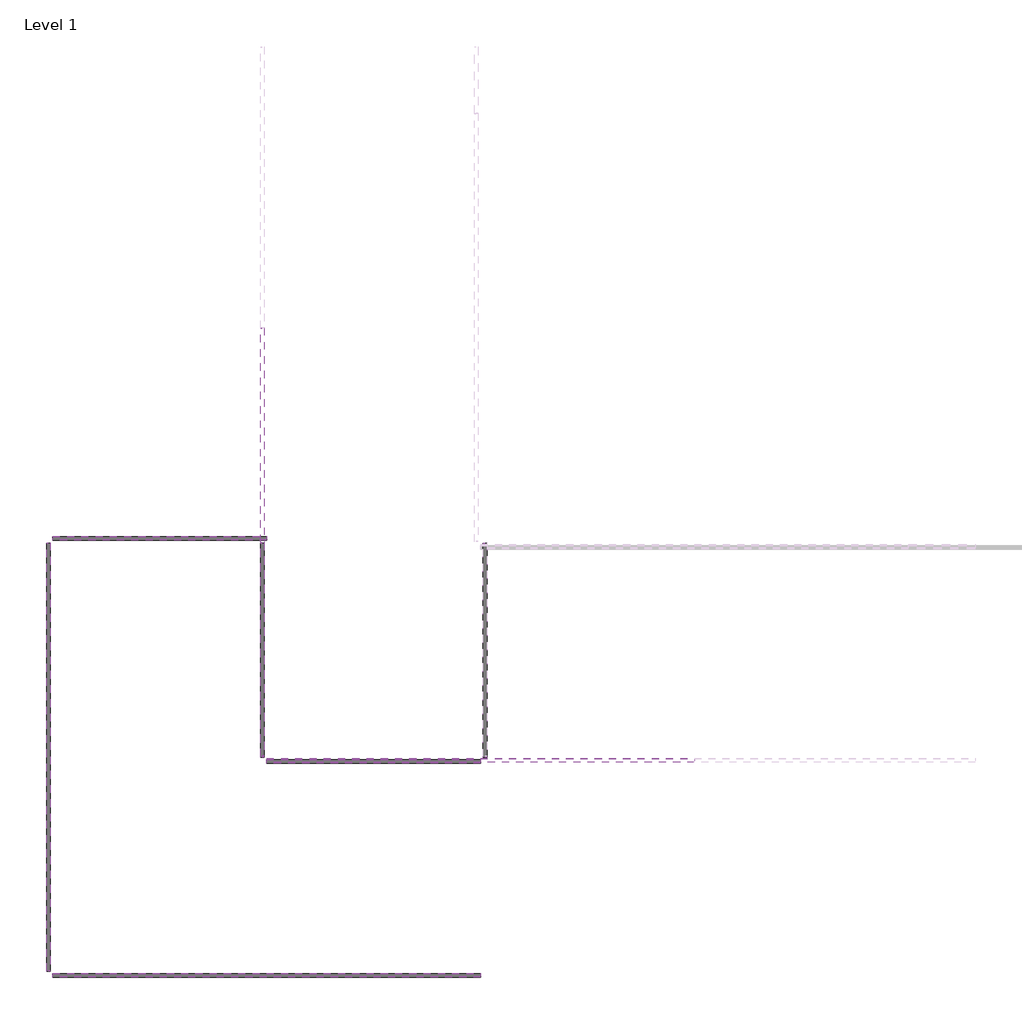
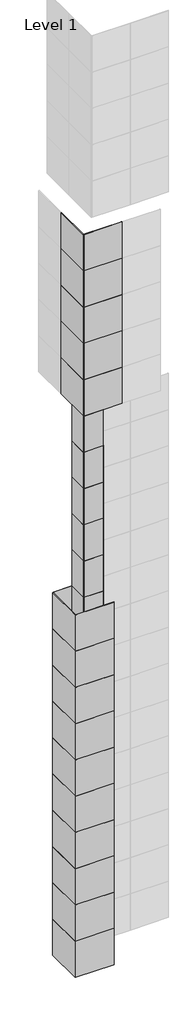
# One storey, part 1 of 15: 134 plates.
"""IFC4 building model written with IfcOpenShell, lengths in millimetres."""

from ifc_helpers import new_model, si_unit, origin, place, context, project, spatial, transform, mapped, element, save
from components import system_panel_glazed_9c75bc08, system_panel_glazed_0a0842ec, system_panel_glazed_aa64d645, system_panel_glazed_d5d3c74f

model = new_model("IFC4")

# Units and contexts
model_context = context("Model", 3, world=origin())
ifc_project = project(units=[si_unit("LENGTHUNIT", "METRE", prefix="MILLI")], contexts=[model_context])

# Site, building, storey
site = spatial("IfcSite", under=ifc_project)
building = spatial("IfcBuilding", under=site)
storey = spatial("IfcBuildingStorey", under=building, Name="Level 1", Elevation=0.0)

# Plates
placement = place(None, origin())
system_panel_glazed_shape = system_panel_glazed_9c75bc08(model_context)
element("IfcPlate", 1, ObjectType="System Panel : Glazed", at=placement, inside=storey, context=model_context, shape_type="MappedRepresentation", body=[
    mapped(system_panel_glazed_shape, transform((-20077.4161695, -5742.0504489, 0.0), x_axis=(1.0, 0.0, 0.0), y_axis=(0.0, 1.0, 0.0), z_axis=(0.0, 0.0, 1.0))),
])
element("IfcPlate", 2, ObjectType="System Panel : Glazed", at=placement, inside=storey, context=model_context, shape_type="MappedRepresentation", body=[
    mapped(system_panel_glazed_shape, transform((-20077.4161695, -5742.0504489, 3048.0), x_axis=(1.0, 0.0, 0.0), y_axis=(0.0, 1.0, 0.0), z_axis=(0.0, 0.0, 1.0))),
])
element("IfcPlate", 3, ObjectType="System Panel : Glazed", at=placement, inside=storey, context=model_context, shape_type="MappedRepresentation", body=[
    mapped(system_panel_glazed_shape, transform((-20077.4161695, -5742.0504489, 6096.0), x_axis=(1.0, 0.0, 0.0), y_axis=(0.0, 1.0, 0.0), z_axis=(0.0, 0.0, 1.0))),
])
element("IfcPlate", 4, ObjectType="System Panel : Glazed", at=placement, inside=storey, context=model_context, shape_type="MappedRepresentation", body=[
    mapped(system_panel_glazed_shape, transform((-20077.4161695, -5742.0504489, 9144.0), x_axis=(1.0, 0.0, 0.0), y_axis=(0.0, 1.0, 0.0), z_axis=(0.0, 0.0, 1.0))),
])
element("IfcPlate", 5, ObjectType="System Panel : Glazed", at=placement, inside=storey, context=model_context, shape_type="MappedRepresentation", body=[
    mapped(system_panel_glazed_shape, transform((-20077.4161695, -5742.0504489, 12192.0), x_axis=(1.0, 0.0, 0.0), y_axis=(0.0, 1.0, 0.0), z_axis=(0.0, 0.0, 1.0))),
])
element("IfcPlate", 6, ObjectType="System Panel : Glazed", at=placement, inside=storey, context=model_context, shape_type="MappedRepresentation", body=[
    mapped(system_panel_glazed_shape, transform((-20077.4161695, -5742.0504489, 15240.0), x_axis=(1.0, 0.0, 0.0), y_axis=(0.0, 1.0, 0.0), z_axis=(0.0, 0.0, 1.0))),
])
element("IfcPlate", 7, ObjectType="System Panel : Glazed", at=placement, inside=storey, context=model_context, shape_type="MappedRepresentation", body=[
    mapped(system_panel_glazed_shape, transform((-20077.4161695, -5742.0504489, 18288.0), x_axis=(1.0, 0.0, 0.0), y_axis=(0.0, 1.0, 0.0), z_axis=(0.0, 0.0, 1.0))),
])
element("IfcPlate", 8, ObjectType="System Panel : Glazed", at=placement, inside=storey, context=model_context, shape_type="MappedRepresentation", body=[
    mapped(system_panel_glazed_shape, transform((-20077.4161695, -5742.0504489, 21336.0), x_axis=(1.0, 0.0, 0.0), y_axis=(0.0, 1.0, 0.0), z_axis=(0.0, 0.0, 1.0))),
])
element("IfcPlate", 9, ObjectType="System Panel : Glazed", at=placement, inside=storey, context=model_context, shape_type="MappedRepresentation", body=[
    mapped(system_panel_glazed_shape, transform((-20077.4161695, -5742.0504489, 24384.0), x_axis=(1.0, 0.0, 0.0), y_axis=(0.0, 1.0, 0.0), z_axis=(0.0, 0.0, 1.0))),
])
element("IfcPlate", 10, ObjectType="System Panel : Glazed", at=placement, inside=storey, context=model_context, shape_type="MappedRepresentation", body=[
    mapped(system_panel_glazed_shape, transform((-20077.4161695, -5742.0504489, 27432.0), x_axis=(1.0, 0.0, 0.0), y_axis=(0.0, 1.0, 0.0), z_axis=(0.0, 0.0, 1.0))),
])
element("IfcPlate", 11, ObjectType="System Panel : Glazed", at=placement, inside=storey, context=model_context, shape_type="MappedRepresentation", body=[
    mapped(system_panel_glazed_shape, transform((-20077.4161695, -5742.0504489, 30480.0), x_axis=(1.0, 0.0, 0.0), y_axis=(0.0, 1.0, 0.0), z_axis=(0.0, 0.0, 1.0))),
])
element("IfcPlate", 12, ObjectType="System Panel : Glazed", at=placement, inside=storey, context=model_context, shape_type="MappedRepresentation", body=[
    mapped(system_panel_glazed_shape, transform((-20077.4161695, -5742.0504489, 33528.0), x_axis=(1.0, 0.0, 0.0), y_axis=(0.0, 1.0, 0.0), z_axis=(0.0, 0.0, 1.0))),
])
element("IfcPlate", 13, ObjectType="System Panel : Glazed", at=placement, inside=storey, context=model_context, shape_type="MappedRepresentation", body=[
    mapped(system_panel_glazed_shape, transform((-20077.4161695, -5742.0504489, 36576.0), x_axis=(1.0, 0.0, 0.0), y_axis=(0.0, 1.0, 0.0), z_axis=(0.0, 0.0, 1.0))),
])
element("IfcPlate", 14, ObjectType="System Panel : Glazed", at=placement, inside=storey, context=model_context, shape_type="MappedRepresentation", body=[
    mapped(system_panel_glazed_shape, transform((-20077.4161695, -5742.0504489, 39624.0), x_axis=(1.0, 0.0, 0.0), y_axis=(0.0, 1.0, 0.0), z_axis=(0.0, 0.0, 1.0))),
])
element("IfcPlate", 15, ObjectType="System Panel : Glazed", at=placement, inside=storey, context=model_context, shape_type="MappedRepresentation", body=[
    mapped(system_panel_glazed_shape, transform((-20077.4161695, -5742.0504489, 42672.0), x_axis=(1.0, 0.0, 0.0), y_axis=(0.0, 1.0, 0.0), z_axis=(0.0, 0.0, 1.0))),
])
element("IfcPlate", 16, ObjectType="System Panel : Glazed", at=placement, inside=storey, context=model_context, shape_type="MappedRepresentation", body=[
    mapped(system_panel_glazed_shape, transform((-20839.4161695, -4980.0504489, 0.0), x_axis=(0.0, -1.0, 0.0), y_axis=(1.0, 0.0, 0.0), z_axis=(0.0, 0.0, 1.0))),
])
element("IfcPlate", 17, ObjectType="System Panel : Glazed", at=placement, inside=storey, context=model_context, shape_type="MappedRepresentation", body=[
    mapped(system_panel_glazed_shape, transform((-20839.4161695, -4980.0504489, 3048.0), x_axis=(0.0, -1.0, 0.0), y_axis=(1.0, 0.0, 0.0), z_axis=(0.0, 0.0, 1.0))),
])
element("IfcPlate", 18, ObjectType="System Panel : Glazed", at=placement, inside=storey, context=model_context, shape_type="MappedRepresentation", body=[
    mapped(system_panel_glazed_shape, transform((-20839.4161695, -4980.0504489, 6096.0), x_axis=(0.0, -1.0, 0.0), y_axis=(1.0, 0.0, 0.0), z_axis=(0.0, 0.0, 1.0))),
])
element("IfcPlate", 19, ObjectType="System Panel : Glazed", at=placement, inside=storey, context=model_context, shape_type="MappedRepresentation", body=[
    mapped(system_panel_glazed_shape, transform((-20839.4161695, -4980.0504489, 9144.0), x_axis=(0.0, -1.0, 0.0), y_axis=(1.0, 0.0, 0.0), z_axis=(0.0, 0.0, 1.0))),
])
element("IfcPlate", 20, ObjectType="System Panel : Glazed", at=placement, inside=storey, context=model_context, shape_type="MappedRepresentation", body=[
    mapped(system_panel_glazed_shape, transform((-20839.4161695, -4980.0504489, 12192.0), x_axis=(0.0, -1.0, 0.0), y_axis=(1.0, 0.0, 0.0), z_axis=(0.0, 0.0, 1.0))),
])
element("IfcPlate", 21, ObjectType="System Panel : Glazed", at=placement, inside=storey, context=model_context, shape_type="MappedRepresentation", body=[
    mapped(system_panel_glazed_shape, transform((-20839.4161695, -4980.0504489, 15240.0), x_axis=(0.0, -1.0, 0.0), y_axis=(1.0, 0.0, 0.0), z_axis=(0.0, 0.0, 1.0))),
])
element("IfcPlate", 22, ObjectType="System Panel : Glazed", at=placement, inside=storey, context=model_context, shape_type="MappedRepresentation", body=[
    mapped(system_panel_glazed_shape, transform((-20839.4161695, -4980.0504489, 18288.0), x_axis=(0.0, -1.0, 0.0), y_axis=(1.0, 0.0, 0.0), z_axis=(0.0, 0.0, 1.0))),
])
element("IfcPlate", 23, ObjectType="System Panel : Glazed", at=placement, inside=storey, context=model_context, shape_type="MappedRepresentation", body=[
    mapped(system_panel_glazed_shape, transform((-20839.4161695, -4980.0504489, 21336.0), x_axis=(0.0, -1.0, 0.0), y_axis=(1.0, 0.0, 0.0), z_axis=(0.0, 0.0, 1.0))),
])
element("IfcPlate", 24, ObjectType="System Panel : Glazed", at=placement, inside=storey, context=model_context, shape_type="MappedRepresentation", body=[
    mapped(system_panel_glazed_shape, transform((-20839.4161695, -4980.0504489, 24384.0), x_axis=(0.0, -1.0, 0.0), y_axis=(1.0, 0.0, 0.0), z_axis=(0.0, 0.0, 1.0))),
])
element("IfcPlate", 25, ObjectType="System Panel : Glazed", at=placement, inside=storey, context=model_context, shape_type="MappedRepresentation", body=[
    mapped(system_panel_glazed_shape, transform((-20839.4161695, -4980.0504489, 27432.0), x_axis=(0.0, -1.0, 0.0), y_axis=(1.0, 0.0, 0.0), z_axis=(0.0, 0.0, 1.0))),
])
element("IfcPlate", 26, ObjectType="System Panel : Glazed", at=placement, inside=storey, context=model_context, shape_type="MappedRepresentation", body=[
    mapped(system_panel_glazed_shape, transform((-20839.4161695, -4980.0504489, 30480.0), x_axis=(0.0, -1.0, 0.0), y_axis=(1.0, 0.0, 0.0), z_axis=(0.0, 0.0, 1.0))),
])
element("IfcPlate", 27, ObjectType="System Panel : Glazed", at=placement, inside=storey, context=model_context, shape_type="MappedRepresentation", body=[
    mapped(system_panel_glazed_shape, transform((-20839.4161695, -4980.0504489, 33528.0), x_axis=(0.0, -1.0, 0.0), y_axis=(1.0, 0.0, 0.0), z_axis=(0.0, 0.0, 1.0))),
])
element("IfcPlate", 28, ObjectType="System Panel : Glazed", at=placement, inside=storey, context=model_context, shape_type="MappedRepresentation", body=[
    mapped(system_panel_glazed_shape, transform((-20839.4161695, -4980.0504489, 36576.0), x_axis=(0.0, -1.0, 0.0), y_axis=(1.0, 0.0, 0.0), z_axis=(0.0, 0.0, 1.0))),
])
element("IfcPlate", 29, ObjectType="System Panel : Glazed", at=placement, inside=storey, context=model_context, shape_type="MappedRepresentation", body=[
    mapped(system_panel_glazed_shape, transform((-20839.4161695, -4980.0504489, 39624.0), x_axis=(0.0, -1.0, 0.0), y_axis=(1.0, 0.0, 0.0), z_axis=(0.0, 0.0, 1.0))),
])
element("IfcPlate", 30, ObjectType="System Panel : Glazed", at=placement, inside=storey, context=model_context, shape_type="MappedRepresentation", body=[
    mapped(system_panel_glazed_shape, transform((-20839.4161695, -4980.0504489, 42672.0), x_axis=(0.0, -1.0, 0.0), y_axis=(1.0, 0.0, 0.0), z_axis=(0.0, 0.0, 1.0))),
])
element("IfcPlate", 31, ObjectType="System Panel : Glazed", at=placement, inside=storey, context=model_context, shape_type="MappedRepresentation", body=[
    mapped(system_panel_glazed_shape, transform((-20839.4161695, -4980.0504489, 0.0), x_axis=(0.0, -1.0, 0.0), y_axis=(1.0, 0.0, 0.0), z_axis=(0.0, 0.0, 1.0))),
])
element("IfcPlate", 32, ObjectType="System Panel : Glazed", at=placement, inside=storey, context=model_context, shape_type="MappedRepresentation", body=[
    mapped(system_panel_glazed_shape, transform((-20839.4161695, -4980.0504489, 3048.0), x_axis=(0.0, -1.0, 0.0), y_axis=(1.0, 0.0, 0.0), z_axis=(0.0, 0.0, 1.0))),
])
element("IfcPlate", 33, ObjectType="System Panel : Glazed", at=placement, inside=storey, context=model_context, shape_type="MappedRepresentation", body=[
    mapped(system_panel_glazed_shape, transform((-20839.4161695, -4980.0504489, 6096.0), x_axis=(0.0, -1.0, 0.0), y_axis=(1.0, 0.0, 0.0), z_axis=(0.0, 0.0, 1.0))),
])
element("IfcPlate", 34, ObjectType="System Panel : Glazed", at=placement, inside=storey, context=model_context, shape_type="MappedRepresentation", body=[
    mapped(system_panel_glazed_shape, transform((-20839.4161695, -4980.0504489, 9144.0), x_axis=(0.0, -1.0, 0.0), y_axis=(1.0, 0.0, 0.0), z_axis=(0.0, 0.0, 1.0))),
])
element("IfcPlate", 35, ObjectType="System Panel : Glazed", at=placement, inside=storey, context=model_context, shape_type="MappedRepresentation", body=[
    mapped(system_panel_glazed_shape, transform((-20839.4161695, -4980.0504489, 12192.0), x_axis=(0.0, -1.0, 0.0), y_axis=(1.0, 0.0, 0.0), z_axis=(0.0, 0.0, 1.0))),
])
element("IfcPlate", 36, ObjectType="System Panel : Glazed", at=placement, inside=storey, context=model_context, shape_type="MappedRepresentation", body=[
    mapped(system_panel_glazed_shape, transform((-20839.4161695, -4980.0504489, 15240.0), x_axis=(0.0, -1.0, 0.0), y_axis=(1.0, 0.0, 0.0), z_axis=(0.0, 0.0, 1.0))),
])
element("IfcPlate", 37, ObjectType="System Panel : Glazed", at=placement, inside=storey, context=model_context, shape_type="MappedRepresentation", body=[
    mapped(system_panel_glazed_shape, transform((-20839.4161695, -4980.0504489, 18288.0), x_axis=(0.0, -1.0, 0.0), y_axis=(1.0, 0.0, 0.0), z_axis=(0.0, 0.0, 1.0))),
])
element("IfcPlate", 38, ObjectType="System Panel : Glazed", at=placement, inside=storey, context=model_context, shape_type="MappedRepresentation", body=[
    mapped(system_panel_glazed_shape, transform((-20839.4161695, -4980.0504489, 21336.0), x_axis=(0.0, -1.0, 0.0), y_axis=(1.0, 0.0, 0.0), z_axis=(0.0, 0.0, 1.0))),
])
element("IfcPlate", 39, ObjectType="System Panel : Glazed", at=placement, inside=storey, context=model_context, shape_type="MappedRepresentation", body=[
    mapped(system_panel_glazed_shape, transform((-20839.4161695, -4980.0504489, 24384.0), x_axis=(0.0, -1.0, 0.0), y_axis=(1.0, 0.0, 0.0), z_axis=(0.0, 0.0, 1.0))),
])
element("IfcPlate", 40, ObjectType="System Panel : Glazed", at=placement, inside=storey, context=model_context, shape_type="MappedRepresentation", body=[
    mapped(system_panel_glazed_shape, transform((-20839.4161695, -4980.0504489, 27432.0), x_axis=(0.0, -1.0, 0.0), y_axis=(1.0, 0.0, 0.0), z_axis=(0.0, 0.0, 1.0))),
])
element("IfcPlate", 41, ObjectType="System Panel : Glazed", at=placement, inside=storey, context=model_context, shape_type="MappedRepresentation", body=[
    mapped(system_panel_glazed_shape, transform((-20839.4161695, -4980.0504489, 30480.0), x_axis=(0.0, -1.0, 0.0), y_axis=(1.0, 0.0, 0.0), z_axis=(0.0, 0.0, 1.0))),
])
element("IfcPlate", 42, ObjectType="System Panel : Glazed", at=placement, inside=storey, context=model_context, shape_type="MappedRepresentation", body=[
    mapped(system_panel_glazed_shape, transform((-20839.4161695, -4980.0504489, 33528.0), x_axis=(0.0, -1.0, 0.0), y_axis=(1.0, 0.0, 0.0), z_axis=(0.0, 0.0, 1.0))),
])
element("IfcPlate", 43, ObjectType="System Panel : Glazed", at=placement, inside=storey, context=model_context, shape_type="MappedRepresentation", body=[
    mapped(system_panel_glazed_shape, transform((-20839.4161695, -4980.0504489, 36576.0), x_axis=(0.0, -1.0, 0.0), y_axis=(1.0, 0.0, 0.0), z_axis=(0.0, 0.0, 1.0))),
])
element("IfcPlate", 44, ObjectType="System Panel : Glazed", at=placement, inside=storey, context=model_context, shape_type="MappedRepresentation", body=[
    mapped(system_panel_glazed_shape, transform((-20839.4161695, -4980.0504489, 39624.0), x_axis=(0.0, -1.0, 0.0), y_axis=(1.0, 0.0, 0.0), z_axis=(0.0, 0.0, 1.0))),
])
element("IfcPlate", 45, ObjectType="System Panel : Glazed", at=placement, inside=storey, context=model_context, shape_type="MappedRepresentation", body=[
    mapped(system_panel_glazed_shape, transform((-20839.4161695, -4980.0504489, 42672.0), x_axis=(0.0, -1.0, 0.0), y_axis=(1.0, 0.0, 0.0), z_axis=(0.0, 0.0, 1.0))),
])
element("IfcPlate", 46, ObjectType="System Panel : Glazed", at=placement, inside=storey, context=model_context, shape_type="MappedRepresentation", body=[
    mapped(system_panel_glazed_shape, transform((-21601.4161695, -4218.0504489, 0.0), x_axis=(-1.0, 0.0, 0.0), y_axis=(0.0, -1.0, 0.0), z_axis=(0.0, 0.0, 1.0))),
])
element("IfcPlate", 47, ObjectType="System Panel : Glazed", at=placement, inside=storey, context=model_context, shape_type="MappedRepresentation", body=[
    mapped(system_panel_glazed_shape, transform((-21601.4161695, -4218.0504489, 3048.0), x_axis=(-1.0, 0.0, 0.0), y_axis=(0.0, -1.0, 0.0), z_axis=(0.0, 0.0, 1.0))),
])
element("IfcPlate", 48, ObjectType="System Panel : Glazed", at=placement, inside=storey, context=model_context, shape_type="MappedRepresentation", body=[
    mapped(system_panel_glazed_shape, transform((-21601.4161695, -4218.0504489, 6096.0), x_axis=(-1.0, 0.0, 0.0), y_axis=(0.0, -1.0, 0.0), z_axis=(0.0, 0.0, 1.0))),
])
element("IfcPlate", 49, ObjectType="System Panel : Glazed", at=placement, inside=storey, context=model_context, shape_type="MappedRepresentation", body=[
    mapped(system_panel_glazed_shape, transform((-21601.4161695, -4218.0504489, 9144.0), x_axis=(-1.0, 0.0, 0.0), y_axis=(0.0, -1.0, 0.0), z_axis=(0.0, 0.0, 1.0))),
])
element("IfcPlate", 50, ObjectType="System Panel : Glazed", at=placement, inside=storey, context=model_context, shape_type="MappedRepresentation", body=[
    mapped(system_panel_glazed_shape, transform((-21601.4161695, -4218.0504489, 12192.0), x_axis=(-1.0, 0.0, 0.0), y_axis=(0.0, -1.0, 0.0), z_axis=(0.0, 0.0, 1.0))),
])
element("IfcPlate", 51, ObjectType="System Panel : Glazed", at=placement, inside=storey, context=model_context, shape_type="MappedRepresentation", body=[
    mapped(system_panel_glazed_shape, transform((-21601.4161695, -4218.0504489, 15240.0), x_axis=(-1.0, 0.0, 0.0), y_axis=(0.0, -1.0, 0.0), z_axis=(0.0, 0.0, 1.0))),
])
element("IfcPlate", 52, ObjectType="System Panel : Glazed", at=placement, inside=storey, context=model_context, shape_type="MappedRepresentation", body=[
    mapped(system_panel_glazed_shape, transform((-21601.4161695, -4218.0504489, 18288.0), x_axis=(-1.0, 0.0, 0.0), y_axis=(0.0, -1.0, 0.0), z_axis=(0.0, 0.0, 1.0))),
])
element("IfcPlate", 53, ObjectType="System Panel : Glazed", at=placement, inside=storey, context=model_context, shape_type="MappedRepresentation", body=[
    mapped(system_panel_glazed_shape, transform((-21601.4161695, -4218.0504489, 21336.0), x_axis=(-1.0, 0.0, 0.0), y_axis=(0.0, -1.0, 0.0), z_axis=(0.0, 0.0, 1.0))),
])
element("IfcPlate", 54, ObjectType="System Panel : Glazed", at=placement, inside=storey, context=model_context, shape_type="MappedRepresentation", body=[
    mapped(system_panel_glazed_shape, transform((-21601.4161695, -4218.0504489, 24384.0), x_axis=(-1.0, 0.0, 0.0), y_axis=(0.0, -1.0, 0.0), z_axis=(0.0, 0.0, 1.0))),
])
element("IfcPlate", 55, ObjectType="System Panel : Glazed", at=placement, inside=storey, context=model_context, shape_type="MappedRepresentation", body=[
    mapped(system_panel_glazed_shape, transform((-21601.4161695, -4218.0504489, 27432.0), x_axis=(-1.0, 0.0, 0.0), y_axis=(0.0, -1.0, 0.0), z_axis=(0.0, 0.0, 1.0))),
])
system_panel_glazed_2_shape = system_panel_glazed_0a0842ec(model_context)
element("IfcPlate", 56, ObjectType="System Panel : Glazed", at=placement, inside=storey, context=model_context, shape_type="MappedRepresentation", body=[
    mapped(system_panel_glazed_2_shape, transform((-19315.4161695, -5742.0504489, 45720.0), x_axis=(1.0, 0.0, 0.0), y_axis=(0.0, 1.0, 0.0), z_axis=(0.0, 0.0, 1.0))),
])
element("IfcPlate", 57, ObjectType="System Panel : Glazed", at=placement, inside=storey, context=model_context, shape_type="MappedRepresentation", body=[
    mapped(system_panel_glazed_2_shape, transform((-20839.4161695, -4218.0504489, 45720.0), x_axis=(0.0, -1.0, 0.0), y_axis=(1.0, 0.0, 0.0), z_axis=(0.0, 0.0, 1.0))),
])
element("IfcPlate", 58, ObjectType="System Panel : Glazed", at=placement, inside=storey, context=model_context, shape_type="MappedRepresentation", body=[
    mapped(system_panel_glazed_2_shape, transform((-20839.4161695, -4218.0504489, 45720.0), x_axis=(0.0, -1.0, 0.0), y_axis=(1.0, 0.0, 0.0), z_axis=(0.0, 0.0, 1.0))),
])
system_panel_glazed_3_shape = system_panel_glazed_aa64d645(model_context)
element("IfcPlate", 59, ObjectType="System Panel : Glazed", at=placement, inside=storey, context=model_context, shape_type="MappedRepresentation", body=[
    mapped(system_panel_glazed_3_shape, transform((-19315.4161695, -5742.0504489, 48768.0), x_axis=(1.0, 0.0, 0.0), y_axis=(0.0, 1.0, 0.0), z_axis=(0.0, 0.0, 1.0))),
])
element("IfcPlate", 60, ObjectType="System Panel : Glazed", at=placement, inside=storey, context=model_context, shape_type="MappedRepresentation", body=[
    mapped(system_panel_glazed_3_shape, transform((-19315.4161695, -5742.0504489, 51816.0), x_axis=(1.0, 0.0, 0.0), y_axis=(0.0, 1.0, 0.0), z_axis=(0.0, 0.0, 1.0))),
])
element("IfcPlate", 61, ObjectType="System Panel : Glazed", at=placement, inside=storey, context=model_context, shape_type="MappedRepresentation", body=[
    mapped(system_panel_glazed_3_shape, transform((-19315.4161695, -5742.0504489, 54864.0), x_axis=(1.0, 0.0, 0.0), y_axis=(0.0, 1.0, 0.0), z_axis=(0.0, 0.0, 1.0))),
])
element("IfcPlate", 62, ObjectType="System Panel : Glazed", at=placement, inside=storey, context=model_context, shape_type="MappedRepresentation", body=[
    mapped(system_panel_glazed_3_shape, transform((-19315.4161695, -5742.0504489, 57912.0), x_axis=(1.0, 0.0, 0.0), y_axis=(0.0, 1.0, 0.0), z_axis=(0.0, 0.0, 1.0))),
])
element("IfcPlate", 63, ObjectType="System Panel : Glazed", at=placement, inside=storey, context=model_context, shape_type="MappedRepresentation", body=[
    mapped(system_panel_glazed_3_shape, transform((-20839.4161695, -4218.0504489, 48768.0), x_axis=(0.0, -1.0, 0.0), y_axis=(1.0, 0.0, 0.0), z_axis=(0.0, 0.0, 1.0))),
])
element("IfcPlate", 64, ObjectType="System Panel : Glazed", at=placement, inside=storey, context=model_context, shape_type="MappedRepresentation", body=[
    mapped(system_panel_glazed_3_shape, transform((-20839.4161695, -4218.0504489, 51816.0), x_axis=(0.0, -1.0, 0.0), y_axis=(1.0, 0.0, 0.0), z_axis=(0.0, 0.0, 1.0))),
])
element("IfcPlate", 65, ObjectType="System Panel : Glazed", at=placement, inside=storey, context=model_context, shape_type="MappedRepresentation", body=[
    mapped(system_panel_glazed_3_shape, transform((-20839.4161695, -4218.0504489, 54864.0), x_axis=(0.0, -1.0, 0.0), y_axis=(1.0, 0.0, 0.0), z_axis=(0.0, 0.0, 1.0))),
])
element("IfcPlate", 66, ObjectType="System Panel : Glazed", at=placement, inside=storey, context=model_context, shape_type="MappedRepresentation", body=[
    mapped(system_panel_glazed_3_shape, transform((-20839.4161695, -4218.0504489, 57912.0), x_axis=(0.0, -1.0, 0.0), y_axis=(1.0, 0.0, 0.0), z_axis=(0.0, 0.0, 1.0))),
])
element("IfcPlate", 67, ObjectType="System Panel : Glazed", at=placement, inside=storey, context=model_context, shape_type="MappedRepresentation", body=[
    mapped(system_panel_glazed_3_shape, transform((-20839.4161695, -4218.0504489, 48768.0), x_axis=(0.0, -1.0, 0.0), y_axis=(1.0, 0.0, 0.0), z_axis=(0.0, 0.0, 1.0))),
])
element("IfcPlate", 68, ObjectType="System Panel : Glazed", at=placement, inside=storey, context=model_context, shape_type="MappedRepresentation", body=[
    mapped(system_panel_glazed_3_shape, transform((-20839.4161695, -4218.0504489, 51816.0), x_axis=(0.0, -1.0, 0.0), y_axis=(1.0, 0.0, 0.0), z_axis=(0.0, 0.0, 1.0))),
])
element("IfcPlate", 69, ObjectType="System Panel : Glazed", at=placement, inside=storey, context=model_context, shape_type="MappedRepresentation", body=[
    mapped(system_panel_glazed_3_shape, transform((-20839.4161695, -4218.0504489, 54864.0), x_axis=(0.0, -1.0, 0.0), y_axis=(1.0, 0.0, 0.0), z_axis=(0.0, 0.0, 1.0))),
])
element("IfcPlate", 70, ObjectType="System Panel : Glazed", at=placement, inside=storey, context=model_context, shape_type="MappedRepresentation", body=[
    mapped(system_panel_glazed_3_shape, transform((-20839.4161695, -4218.0504489, 57912.0), x_axis=(0.0, -1.0, 0.0), y_axis=(1.0, 0.0, 0.0), z_axis=(0.0, 0.0, 1.0))),
])
element("IfcPlate", 71, ObjectType="System Panel : Glazed", at=placement, inside=storey, context=model_context, shape_type="MappedRepresentation", body=[
    mapped(system_panel_glazed_3_shape, transform((-20839.4161695, -7266.0504489, 0.0), x_axis=(1.0, 0.0, 0.0), y_axis=(0.0, 1.0, 0.0), z_axis=(0.0, 0.0, 1.0))),
])
element("IfcPlate", 72, ObjectType="System Panel : Glazed", at=placement, inside=storey, context=model_context, shape_type="MappedRepresentation", body=[
    mapped(system_panel_glazed_3_shape, transform((-20839.4161695, -7266.0504489, 3048.0), x_axis=(1.0, 0.0, 0.0), y_axis=(0.0, 1.0, 0.0), z_axis=(0.0, 0.0, 1.0))),
])
element("IfcPlate", 73, ObjectType="System Panel : Glazed", at=placement, inside=storey, context=model_context, shape_type="MappedRepresentation", body=[
    mapped(system_panel_glazed_3_shape, transform((-20839.4161695, -7266.0504489, 6096.0), x_axis=(1.0, 0.0, 0.0), y_axis=(0.0, 1.0, 0.0), z_axis=(0.0, 0.0, 1.0))),
])
element("IfcPlate", 74, ObjectType="System Panel : Glazed", at=placement, inside=storey, context=model_context, shape_type="MappedRepresentation", body=[
    mapped(system_panel_glazed_3_shape, transform((-20839.4161695, -7266.0504489, 9144.0), x_axis=(1.0, 0.0, 0.0), y_axis=(0.0, 1.0, 0.0), z_axis=(0.0, 0.0, 1.0))),
])
element("IfcPlate", 75, ObjectType="System Panel : Glazed", at=placement, inside=storey, context=model_context, shape_type="MappedRepresentation", body=[
    mapped(system_panel_glazed_3_shape, transform((-20839.4161695, -7266.0504489, 12192.0), x_axis=(1.0, 0.0, 0.0), y_axis=(0.0, 1.0, 0.0), z_axis=(0.0, 0.0, 1.0))),
])
element("IfcPlate", 76, ObjectType="System Panel : Glazed", at=placement, inside=storey, context=model_context, shape_type="MappedRepresentation", body=[
    mapped(system_panel_glazed_3_shape, transform((-20839.4161695, -7266.0504489, 15240.0), x_axis=(1.0, 0.0, 0.0), y_axis=(0.0, 1.0, 0.0), z_axis=(0.0, 0.0, 1.0))),
])
element("IfcPlate", 77, ObjectType="System Panel : Glazed", at=placement, inside=storey, context=model_context, shape_type="MappedRepresentation", body=[
    mapped(system_panel_glazed_3_shape, transform((-20839.4161695, -7266.0504489, 18288.0), x_axis=(1.0, 0.0, 0.0), y_axis=(0.0, 1.0, 0.0), z_axis=(0.0, 0.0, 1.0))),
])
element("IfcPlate", 78, ObjectType="System Panel : Glazed", at=placement, inside=storey, context=model_context, shape_type="MappedRepresentation", body=[
    mapped(system_panel_glazed_3_shape, transform((-20839.4161695, -7266.0504489, 21336.0), x_axis=(1.0, 0.0, 0.0), y_axis=(0.0, 1.0, 0.0), z_axis=(0.0, 0.0, 1.0))),
])
element("IfcPlate", 79, ObjectType="System Panel : Glazed", at=placement, inside=storey, context=model_context, shape_type="MappedRepresentation", body=[
    mapped(system_panel_glazed_3_shape, transform((-20839.4161695, -7266.0504489, 24384.0), x_axis=(1.0, 0.0, 0.0), y_axis=(0.0, 1.0, 0.0), z_axis=(0.0, 0.0, 1.0))),
])
element("IfcPlate", 80, ObjectType="System Panel : Glazed", at=placement, inside=storey, context=model_context, shape_type="MappedRepresentation", body=[
    mapped(system_panel_glazed_3_shape, transform((-20839.4161695, -7266.0504489, 27432.0), x_axis=(1.0, 0.0, 0.0), y_axis=(0.0, 1.0, 0.0), z_axis=(0.0, 0.0, 1.0))),
])
element("IfcPlate", 81, ObjectType="System Panel : Glazed", at=placement, inside=storey, context=model_context, shape_type="MappedRepresentation", body=[
    mapped(system_panel_glazed_3_shape, transform((-22363.4161695, -5742.0504489, 0.0), x_axis=(0.0, -1.0, 0.0), y_axis=(1.0, 0.0, 0.0), z_axis=(0.0, 0.0, 1.0))),
])
element("IfcPlate", 82, ObjectType="System Panel : Glazed", at=placement, inside=storey, context=model_context, shape_type="MappedRepresentation", body=[
    mapped(system_panel_glazed_3_shape, transform((-22363.4161695, -5742.0504489, 3048.0), x_axis=(0.0, -1.0, 0.0), y_axis=(1.0, 0.0, 0.0), z_axis=(0.0, 0.0, 1.0))),
])
element("IfcPlate", 83, ObjectType="System Panel : Glazed", at=placement, inside=storey, context=model_context, shape_type="MappedRepresentation", body=[
    mapped(system_panel_glazed_3_shape, transform((-22363.4161695, -5742.0504489, 6096.0), x_axis=(0.0, -1.0, 0.0), y_axis=(1.0, 0.0, 0.0), z_axis=(0.0, 0.0, 1.0))),
])
element("IfcPlate", 84, ObjectType="System Panel : Glazed", at=placement, inside=storey, context=model_context, shape_type="MappedRepresentation", body=[
    mapped(system_panel_glazed_3_shape, transform((-22363.4161695, -5742.0504489, 9144.0), x_axis=(0.0, -1.0, 0.0), y_axis=(1.0, 0.0, 0.0), z_axis=(0.0, 0.0, 1.0))),
])
element("IfcPlate", 85, ObjectType="System Panel : Glazed", at=placement, inside=storey, context=model_context, shape_type="MappedRepresentation", body=[
    mapped(system_panel_glazed_3_shape, transform((-22363.4161695, -5742.0504489, 12192.0), x_axis=(0.0, -1.0, 0.0), y_axis=(1.0, 0.0, 0.0), z_axis=(0.0, 0.0, 1.0))),
])
element("IfcPlate", 86, ObjectType="System Panel : Glazed", at=placement, inside=storey, context=model_context, shape_type="MappedRepresentation", body=[
    mapped(system_panel_glazed_3_shape, transform((-22363.4161695, -5742.0504489, 15240.0), x_axis=(0.0, -1.0, 0.0), y_axis=(1.0, 0.0, 0.0), z_axis=(0.0, 0.0, 1.0))),
])
element("IfcPlate", 87, ObjectType="System Panel : Glazed", at=placement, inside=storey, context=model_context, shape_type="MappedRepresentation", body=[
    mapped(system_panel_glazed_3_shape, transform((-22363.4161695, -5742.0504489, 18288.0), x_axis=(0.0, -1.0, 0.0), y_axis=(1.0, 0.0, 0.0), z_axis=(0.0, 0.0, 1.0))),
])
element("IfcPlate", 88, ObjectType="System Panel : Glazed", at=placement, inside=storey, context=model_context, shape_type="MappedRepresentation", body=[
    mapped(system_panel_glazed_3_shape, transform((-22363.4161695, -5742.0504489, 21336.0), x_axis=(0.0, -1.0, 0.0), y_axis=(1.0, 0.0, 0.0), z_axis=(0.0, 0.0, 1.0))),
])
element("IfcPlate", 89, ObjectType="System Panel : Glazed", at=placement, inside=storey, context=model_context, shape_type="MappedRepresentation", body=[
    mapped(system_panel_glazed_3_shape, transform((-22363.4161695, -5742.0504489, 24384.0), x_axis=(0.0, -1.0, 0.0), y_axis=(1.0, 0.0, 0.0), z_axis=(0.0, 0.0, 1.0))),
])
element("IfcPlate", 90, ObjectType="System Panel : Glazed", at=placement, inside=storey, context=model_context, shape_type="MappedRepresentation", body=[
    mapped(system_panel_glazed_3_shape, transform((-22363.4161695, -5742.0504489, 27432.0), x_axis=(0.0, -1.0, 0.0), y_axis=(1.0, 0.0, 0.0), z_axis=(0.0, 0.0, 1.0))),
])
element("IfcPlate", 91, ObjectType="System Panel : Glazed", at=placement, inside=storey, context=model_context, shape_type="MappedRepresentation", body=[
    mapped(system_panel_glazed_3_shape, transform((-22363.4161695, -5742.0504489, 0.0), x_axis=(0.0, -1.0, 0.0), y_axis=(1.0, 0.0, 0.0), z_axis=(0.0, 0.0, 1.0))),
])
element("IfcPlate", 92, ObjectType="System Panel : Glazed", at=placement, inside=storey, context=model_context, shape_type="MappedRepresentation", body=[
    mapped(system_panel_glazed_3_shape, transform((-22363.4161695, -5742.0504489, 3048.0), x_axis=(0.0, -1.0, 0.0), y_axis=(1.0, 0.0, 0.0), z_axis=(0.0, 0.0, 1.0))),
])
element("IfcPlate", 93, ObjectType="System Panel : Glazed", at=placement, inside=storey, context=model_context, shape_type="MappedRepresentation", body=[
    mapped(system_panel_glazed_3_shape, transform((-22363.4161695, -5742.0504489, 6096.0), x_axis=(0.0, -1.0, 0.0), y_axis=(1.0, 0.0, 0.0), z_axis=(0.0, 0.0, 1.0))),
])
element("IfcPlate", 94, ObjectType="System Panel : Glazed", at=placement, inside=storey, context=model_context, shape_type="MappedRepresentation", body=[
    mapped(system_panel_glazed_3_shape, transform((-22363.4161695, -5742.0504489, 9144.0), x_axis=(0.0, -1.0, 0.0), y_axis=(1.0, 0.0, 0.0), z_axis=(0.0, 0.0, 1.0))),
])
element("IfcPlate", 95, ObjectType="System Panel : Glazed", at=placement, inside=storey, context=model_context, shape_type="MappedRepresentation", body=[
    mapped(system_panel_glazed_3_shape, transform((-22363.4161695, -5742.0504489, 12192.0), x_axis=(0.0, -1.0, 0.0), y_axis=(1.0, 0.0, 0.0), z_axis=(0.0, 0.0, 1.0))),
])
element("IfcPlate", 96, ObjectType="System Panel : Glazed", at=placement, inside=storey, context=model_context, shape_type="MappedRepresentation", body=[
    mapped(system_panel_glazed_3_shape, transform((-22363.4161695, -5742.0504489, 15240.0), x_axis=(0.0, -1.0, 0.0), y_axis=(1.0, 0.0, 0.0), z_axis=(0.0, 0.0, 1.0))),
])
element("IfcPlate", 97, ObjectType="System Panel : Glazed", at=placement, inside=storey, context=model_context, shape_type="MappedRepresentation", body=[
    mapped(system_panel_glazed_3_shape, transform((-22363.4161695, -5742.0504489, 18288.0), x_axis=(0.0, -1.0, 0.0), y_axis=(1.0, 0.0, 0.0), z_axis=(0.0, 0.0, 1.0))),
])
element("IfcPlate", 98, ObjectType="System Panel : Glazed", at=placement, inside=storey, context=model_context, shape_type="MappedRepresentation", body=[
    mapped(system_panel_glazed_3_shape, transform((-22363.4161695, -5742.0504489, 21336.0), x_axis=(0.0, -1.0, 0.0), y_axis=(1.0, 0.0, 0.0), z_axis=(0.0, 0.0, 1.0))),
])
element("IfcPlate", 99, ObjectType="System Panel : Glazed", at=placement, inside=storey, context=model_context, shape_type="MappedRepresentation", body=[
    mapped(system_panel_glazed_3_shape, transform((-22363.4161695, -5742.0504489, 24384.0), x_axis=(0.0, -1.0, 0.0), y_axis=(1.0, 0.0, 0.0), z_axis=(0.0, 0.0, 1.0))),
])
element("IfcPlate", 100, ObjectType="System Panel : Glazed", at=placement, inside=storey, context=model_context, shape_type="MappedRepresentation", body=[
    mapped(system_panel_glazed_3_shape, transform((-22363.4161695, -5742.0504489, 27432.0), x_axis=(0.0, -1.0, 0.0), y_axis=(1.0, 0.0, 0.0), z_axis=(0.0, 0.0, 1.0))),
])
element("IfcPlate", 101, ObjectType="System Panel : Glazed", at=placement, inside=storey, context=model_context, shape_type="MappedRepresentation", body=[
    mapped(system_panel_glazed_3_shape, transform((-22363.4161695, -5742.0504489, 0.0), x_axis=(0.0, -1.0, 0.0), y_axis=(1.0, 0.0, 0.0), z_axis=(0.0, 0.0, 1.0))),
])
element("IfcPlate", 102, ObjectType="System Panel : Glazed", at=placement, inside=storey, context=model_context, shape_type="MappedRepresentation", body=[
    mapped(system_panel_glazed_3_shape, transform((-22363.4161695, -5742.0504489, 3048.0), x_axis=(0.0, -1.0, 0.0), y_axis=(1.0, 0.0, 0.0), z_axis=(0.0, 0.0, 1.0))),
])
element("IfcPlate", 103, ObjectType="System Panel : Glazed", at=placement, inside=storey, context=model_context, shape_type="MappedRepresentation", body=[
    mapped(system_panel_glazed_3_shape, transform((-22363.4161695, -5742.0504489, 6096.0), x_axis=(0.0, -1.0, 0.0), y_axis=(1.0, 0.0, 0.0), z_axis=(0.0, 0.0, 1.0))),
])
element("IfcPlate", 104, ObjectType="System Panel : Glazed", at=placement, inside=storey, context=model_context, shape_type="MappedRepresentation", body=[
    mapped(system_panel_glazed_3_shape, transform((-22363.4161695, -5742.0504489, 9144.0), x_axis=(0.0, -1.0, 0.0), y_axis=(1.0, 0.0, 0.0), z_axis=(0.0, 0.0, 1.0))),
])
element("IfcPlate", 105, ObjectType="System Panel : Glazed", at=placement, inside=storey, context=model_context, shape_type="MappedRepresentation", body=[
    mapped(system_panel_glazed_3_shape, transform((-22363.4161695, -5742.0504489, 12192.0), x_axis=(0.0, -1.0, 0.0), y_axis=(1.0, 0.0, 0.0), z_axis=(0.0, 0.0, 1.0))),
])
element("IfcPlate", 106, ObjectType="System Panel : Glazed", at=placement, inside=storey, context=model_context, shape_type="MappedRepresentation", body=[
    mapped(system_panel_glazed_3_shape, transform((-22363.4161695, -5742.0504489, 15240.0), x_axis=(0.0, -1.0, 0.0), y_axis=(1.0, 0.0, 0.0), z_axis=(0.0, 0.0, 1.0))),
])
element("IfcPlate", 107, ObjectType="System Panel : Glazed", at=placement, inside=storey, context=model_context, shape_type="MappedRepresentation", body=[
    mapped(system_panel_glazed_3_shape, transform((-22363.4161695, -5742.0504489, 18288.0), x_axis=(0.0, -1.0, 0.0), y_axis=(1.0, 0.0, 0.0), z_axis=(0.0, 0.0, 1.0))),
])
element("IfcPlate", 108, ObjectType="System Panel : Glazed", at=placement, inside=storey, context=model_context, shape_type="MappedRepresentation", body=[
    mapped(system_panel_glazed_3_shape, transform((-22363.4161695, -5742.0504489, 21336.0), x_axis=(0.0, -1.0, 0.0), y_axis=(1.0, 0.0, 0.0), z_axis=(0.0, 0.0, 1.0))),
])
element("IfcPlate", 109, ObjectType="System Panel : Glazed", at=placement, inside=storey, context=model_context, shape_type="MappedRepresentation", body=[
    mapped(system_panel_glazed_3_shape, transform((-22363.4161695, -5742.0504489, 24384.0), x_axis=(0.0, -1.0, 0.0), y_axis=(1.0, 0.0, 0.0), z_axis=(0.0, 0.0, 1.0))),
])
element("IfcPlate", 110, ObjectType="System Panel : Glazed", at=placement, inside=storey, context=model_context, shape_type="MappedRepresentation", body=[
    mapped(system_panel_glazed_3_shape, transform((-22363.4161695, -5742.0504489, 27432.0), x_axis=(0.0, -1.0, 0.0), y_axis=(1.0, 0.0, 0.0), z_axis=(0.0, 0.0, 1.0))),
])
element("IfcPlate", 111, ObjectType="System Panel : Glazed", at=placement, inside=storey, context=model_context, shape_type="MappedRepresentation", body=[
    mapped(system_panel_glazed_3_shape, transform((-20839.4161695, -7266.0504489, 0.0), x_axis=(1.0, 0.0, 0.0), y_axis=(0.0, 1.0, 0.0), z_axis=(0.0, 0.0, 1.0))),
])
element("IfcPlate", 112, ObjectType="System Panel : Glazed", at=placement, inside=storey, context=model_context, shape_type="MappedRepresentation", body=[
    mapped(system_panel_glazed_3_shape, transform((-20839.4161695, -7266.0504489, 3048.0), x_axis=(1.0, 0.0, 0.0), y_axis=(0.0, 1.0, 0.0), z_axis=(0.0, 0.0, 1.0))),
])
element("IfcPlate", 113, ObjectType="System Panel : Glazed", at=placement, inside=storey, context=model_context, shape_type="MappedRepresentation", body=[
    mapped(system_panel_glazed_3_shape, transform((-20839.4161695, -7266.0504489, 6096.0), x_axis=(1.0, 0.0, 0.0), y_axis=(0.0, 1.0, 0.0), z_axis=(0.0, 0.0, 1.0))),
])
element("IfcPlate", 114, ObjectType="System Panel : Glazed", at=placement, inside=storey, context=model_context, shape_type="MappedRepresentation", body=[
    mapped(system_panel_glazed_3_shape, transform((-20839.4161695, -7266.0504489, 9144.0), x_axis=(1.0, 0.0, 0.0), y_axis=(0.0, 1.0, 0.0), z_axis=(0.0, 0.0, 1.0))),
])
element("IfcPlate", 115, ObjectType="System Panel : Glazed", at=placement, inside=storey, context=model_context, shape_type="MappedRepresentation", body=[
    mapped(system_panel_glazed_3_shape, transform((-20839.4161695, -7266.0504489, 12192.0), x_axis=(1.0, 0.0, 0.0), y_axis=(0.0, 1.0, 0.0), z_axis=(0.0, 0.0, 1.0))),
])
element("IfcPlate", 116, ObjectType="System Panel : Glazed", at=placement, inside=storey, context=model_context, shape_type="MappedRepresentation", body=[
    mapped(system_panel_glazed_3_shape, transform((-20839.4161695, -7266.0504489, 15240.0), x_axis=(1.0, 0.0, 0.0), y_axis=(0.0, 1.0, 0.0), z_axis=(0.0, 0.0, 1.0))),
])
element("IfcPlate", 117, ObjectType="System Panel : Glazed", at=placement, inside=storey, context=model_context, shape_type="MappedRepresentation", body=[
    mapped(system_panel_glazed_3_shape, transform((-20839.4161695, -7266.0504489, 18288.0), x_axis=(1.0, 0.0, 0.0), y_axis=(0.0, 1.0, 0.0), z_axis=(0.0, 0.0, 1.0))),
])
element("IfcPlate", 118, ObjectType="System Panel : Glazed", at=placement, inside=storey, context=model_context, shape_type="MappedRepresentation", body=[
    mapped(system_panel_glazed_3_shape, transform((-20839.4161695, -7266.0504489, 21336.0), x_axis=(1.0, 0.0, 0.0), y_axis=(0.0, 1.0, 0.0), z_axis=(0.0, 0.0, 1.0))),
])
element("IfcPlate", 119, ObjectType="System Panel : Glazed", at=placement, inside=storey, context=model_context, shape_type="MappedRepresentation", body=[
    mapped(system_panel_glazed_3_shape, transform((-20839.4161695, -7266.0504489, 24384.0), x_axis=(1.0, 0.0, 0.0), y_axis=(0.0, 1.0, 0.0), z_axis=(0.0, 0.0, 1.0))),
])
element("IfcPlate", 120, ObjectType="System Panel : Glazed", at=placement, inside=storey, context=model_context, shape_type="MappedRepresentation", body=[
    mapped(system_panel_glazed_3_shape, transform((-20839.4161695, -7266.0504489, 27432.0), x_axis=(1.0, 0.0, 0.0), y_axis=(0.0, 1.0, 0.0), z_axis=(0.0, 0.0, 1.0))),
])
system_panel_glazed_4_shape = system_panel_glazed_d5d3c74f(model_context)
element("IfcPlate", 121, ObjectType="System Panel : Glazed", at=placement, inside=storey, context=model_context, shape_type="MappedRepresentation", body=[
    mapped(system_panel_glazed_4_shape, transform((-19315.4161695, -4980.0504489, 0.0), x_axis=(0.0, -1.0, 0.0), y_axis=(1.0, 0.0, 0.0), z_axis=(0.0, 0.0, 1.0))),
])
element("IfcPlate", 122, ObjectType="System Panel : Glazed", at=placement, inside=storey, context=model_context, shape_type="MappedRepresentation", body=[
    mapped(system_panel_glazed_4_shape, transform((-19315.4161695, -4980.0504489, 3048.0), x_axis=(0.0, -1.0, 0.0), y_axis=(1.0, 0.0, 0.0), z_axis=(0.0, 0.0, 1.0))),
])
element("IfcPlate", 123, ObjectType="System Panel : Glazed", at=placement, inside=storey, context=model_context, shape_type="MappedRepresentation", body=[
    mapped(system_panel_glazed_4_shape, transform((-19315.4161695, -4980.0504489, 6096.0), x_axis=(0.0, -1.0, 0.0), y_axis=(1.0, 0.0, 0.0), z_axis=(0.0, 0.0, 1.0))),
])
element("IfcPlate", 124, ObjectType="System Panel : Glazed", at=placement, inside=storey, context=model_context, shape_type="MappedRepresentation", body=[
    mapped(system_panel_glazed_4_shape, transform((-19315.4161695, -4980.0504489, 9144.0), x_axis=(0.0, -1.0, 0.0), y_axis=(1.0, 0.0, 0.0), z_axis=(0.0, 0.0, 1.0))),
])
element("IfcPlate", 125, ObjectType="System Panel : Glazed", at=placement, inside=storey, context=model_context, shape_type="MappedRepresentation", body=[
    mapped(system_panel_glazed_4_shape, transform((-19315.4161695, -4980.0504489, 12192.0), x_axis=(0.0, -1.0, 0.0), y_axis=(1.0, 0.0, 0.0), z_axis=(0.0, 0.0, 1.0))),
])
element("IfcPlate", 126, ObjectType="System Panel : Glazed", at=placement, inside=storey, context=model_context, shape_type="MappedRepresentation", body=[
    mapped(system_panel_glazed_4_shape, transform((-19315.4161695, -4980.0504489, 15240.0), x_axis=(0.0, -1.0, 0.0), y_axis=(1.0, 0.0, 0.0), z_axis=(0.0, 0.0, 1.0))),
])
element("IfcPlate", 127, ObjectType="System Panel : Glazed", at=placement, inside=storey, context=model_context, shape_type="MappedRepresentation", body=[
    mapped(system_panel_glazed_4_shape, transform((-19315.4161695, -4980.0504489, 18288.0), x_axis=(0.0, -1.0, 0.0), y_axis=(1.0, 0.0, 0.0), z_axis=(0.0, 0.0, 1.0))),
])
element("IfcPlate", 128, ObjectType="System Panel : Glazed", at=placement, inside=storey, context=model_context, shape_type="MappedRepresentation", body=[
    mapped(system_panel_glazed_4_shape, transform((-19315.4161695, -4980.0504489, 21336.0), x_axis=(0.0, -1.0, 0.0), y_axis=(1.0, 0.0, 0.0), z_axis=(0.0, 0.0, 1.0))),
])
element("IfcPlate", 129, ObjectType="System Panel : Glazed", at=placement, inside=storey, context=model_context, shape_type="MappedRepresentation", body=[
    mapped(system_panel_glazed_4_shape, transform((-19315.4161695, -4980.0504489, 24384.0), x_axis=(0.0, -1.0, 0.0), y_axis=(1.0, 0.0, 0.0), z_axis=(0.0, 0.0, 1.0))),
])
element("IfcPlate", 130, ObjectType="System Panel : Glazed", at=placement, inside=storey, context=model_context, shape_type="MappedRepresentation", body=[
    mapped(system_panel_glazed_4_shape, transform((-19315.4161695, -4980.0504489, 27432.0), x_axis=(0.0, -1.0, 0.0), y_axis=(1.0, 0.0, 0.0), z_axis=(0.0, 0.0, 1.0))),
])
element("IfcPlate", 131, ObjectType="System Panel : Glazed", at=placement, inside=storey, context=model_context, shape_type="MappedRepresentation", body=[
    mapped(system_panel_glazed_4_shape, transform((-19315.4161695, -4980.0504489, 30480.0), x_axis=(0.0, -1.0, 0.0), y_axis=(1.0, 0.0, 0.0), z_axis=(0.0, 0.0, 1.0))),
])
element("IfcPlate", 132, ObjectType="System Panel : Glazed", at=placement, inside=storey, context=model_context, shape_type="MappedRepresentation", body=[
    mapped(system_panel_glazed_4_shape, transform((-19315.4161695, -4980.0504489, 33528.0), x_axis=(0.0, -1.0, 0.0), y_axis=(1.0, 0.0, 0.0), z_axis=(0.0, 0.0, 1.0))),
])
element("IfcPlate", 133, ObjectType="System Panel : Glazed", at=placement, inside=storey, context=model_context, shape_type="MappedRepresentation", body=[
    mapped(system_panel_glazed_4_shape, transform((-19315.4161695, -4980.0504489, 36576.0), x_axis=(0.0, -1.0, 0.0), y_axis=(1.0, 0.0, 0.0), z_axis=(0.0, 0.0, 1.0))),
])
element("IfcPlate", 134, ObjectType="System Panel : Glazed", at=placement, inside=storey, context=model_context, shape_type="MappedRepresentation", body=[
    mapped(system_panel_glazed_4_shape, transform((-19315.4161695, -4980.0504489, 39624.0), x_axis=(0.0, -1.0, 0.0), y_axis=(1.0, 0.0, 0.0), z_axis=(0.0, 0.0, 1.0))),
])

save(model, "model.ifc")
